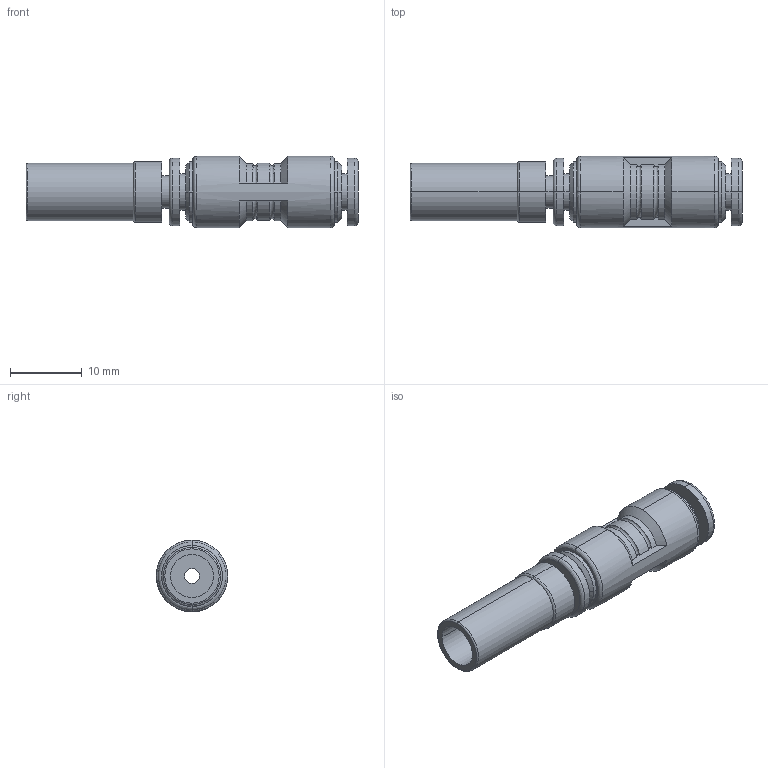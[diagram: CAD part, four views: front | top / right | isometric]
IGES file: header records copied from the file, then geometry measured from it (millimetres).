
Global section: file name: No Iges File Name specified; native system: AutoDesk Inventor R11.0; preprocessor: AutoDesk Inventor Iges Exporter R11.0; author: No Author specified; organization: No Organization specified; date: 20120321.163120; units: millimetre
Bounding box: 46.4 x 10 x 10 mm (x, y, z)
Volume: 2040.8 mm3; surface area: 2291.4 mm2
Topology: 1 solids, 1 shells, 75 faces, 168 edges, 106 vertices
Faces by surface type: bspline 32, cylinder 18, plane 11, torus 6, cone 4, revolution 4
